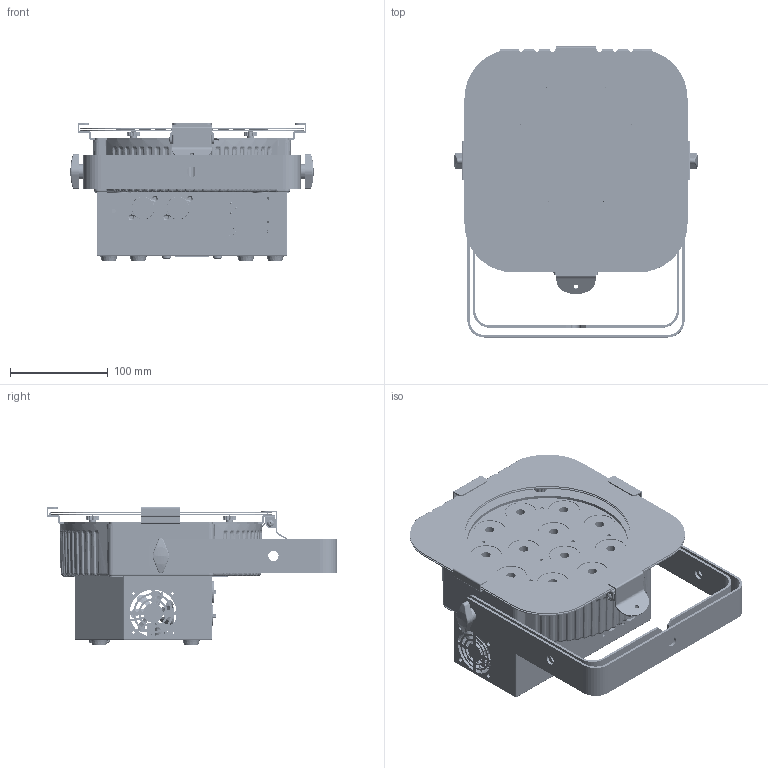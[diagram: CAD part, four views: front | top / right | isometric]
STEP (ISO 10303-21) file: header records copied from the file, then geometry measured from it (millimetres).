
FILE_DESCRIPTION((''),'2;1');
FILE_NAME('LA3738-DY-00_ASM','2019-04-07T',('KF005'),(''),'PRO/ENGINEER BY PARAMETRIC TECHNOLOGY CORPORATION, 2010280','PRO/ENGINEER BY PARAMETRIC TECHNOLOGY CORPORATION, 2010280','');
FILE_SCHEMA(('CONFIG_CONTROL_DESIGN','SHAPE_APPEARANCE_LAYERS_GROUPS'));
Products named in the file (43): LA3738-DY-01; LA3738-DY-03; LA3738-DY-04; LA3738-DY-05; LA3738-DY-06; LA3738-DY-07; LA3738-DY-08; LA3738-DY-09; LA3738-DY-10; LA3738-DY-02_ASM; LA3738-DY-27; LA3738-DY-26; LA3738-DY-28; LA3738-DY-29; LA3738-DY-30; LA-1010D-3P-031; LA-1010D-3P-032; LA-1010D-3P-033; LA-1010D-3P-034; LA-1010D-3P-035; SN-M3X16; LA-1010D-3P-030_ASM; LA3738-06X; LA3738-DY-19; LA3738-DY-20; LA3738-DY-21X; LA3738-DY-23; LA3738-DY-24; LA3738-DY-22_ASM; LA3738-DY-25; FS-5011-01; F--BX; LZ; BZ; LA3401-10; B-SMB-0011; B-KNZ-0001; B-KNZ-0002; B-KNZ-0004; B-KNZ-0003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
Assembly tree (82 placements, depth 4):
  LA3738-DY-00_ASM
    LA3738-DY-01
    LA3738-DY-02_ASM
      LA3738-DY-03
      LA3738-DY-04  x12
      LA3738-DY-05  x12
      LA3738-DY-06
      LA3738-DY-07  x6
      LA3738-DY-08
      LA3738-DY-09
      LA3738-DY-10
    LA3738-DY-27  x4
    LA3738-DY-26
    LA3738-DY-28
    LA3738-DY-29  x2
    LA3738-DY-30
    LA-1010D-3P-030_ASM
      LA-1010D-3P-031
      LA-1010D-3P-032
      LA-1010D-3P-033
      LA-1010D-3P-034
      LA-1010D-3P-035
      SN-M3X16  x4
    LA3738-X-00_ASM
      LA3738-06X
      LA3738-DY-19
      LA3738-DY-20
      LA3738-DY-21X
      LA3738-DY-22_ASM
        LA3738-DY-23
        LA3738-DY-24
      LA3738-DY-25  x4
      FS-5011-01  x2
      F--BX  x2
      LZ
      BZ
      LA3401-10  x2
      ZJ-L30501-04-03-00_ASM
        B-SMB-0011
        B-KNZ-0001
        B-KNZ-0002
        B-KNZ-0004
        B-KNZ-0003
Bounding box: 249 x 297.4 x 140.8 mm (x, y, z)
Volume: 1107244.1 mm3; surface area: 1341849.5 mm2
Topology: 97 solids, 97 shells, 9083 faces, 24200 edges, 15605 vertices
Faces by surface type: cylinder 3705, plane 3653, bspline 1287, torus 194, cone 156, sphere 44, extrusion 44
Entity records: 294151 total; most frequent: CARTESIAN_POINT 118037, ORIENTED_EDGE 29318, DIRECTION 25702, EDGE_CURVE 14659, PRESENTATION_STYLE_ASSIGNMENT 13216, STYLED_ITEM 13022, CURVE_STYLE 12955, VERTEX_POINT 9299
